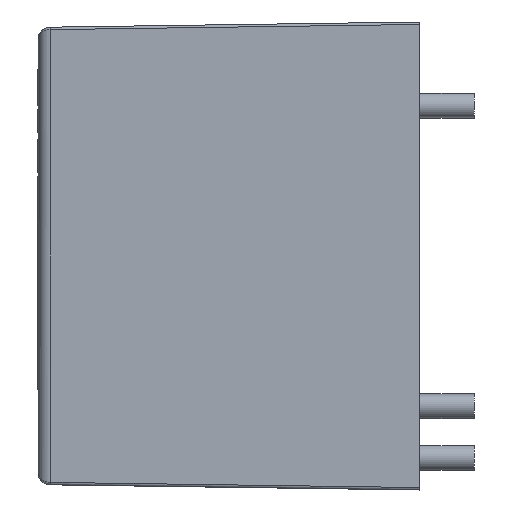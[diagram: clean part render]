
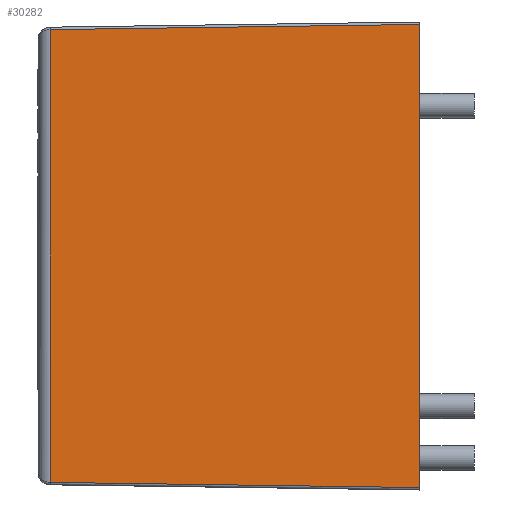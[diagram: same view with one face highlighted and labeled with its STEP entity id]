
A CAD part, left-side view. The second image highlights one B-rep face of the part: STEP entity #30282.
In plain terms, the highlighted planar face has unit normal (-1, 0.014, 0).
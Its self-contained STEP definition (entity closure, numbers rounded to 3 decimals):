
#292 = CARTESIAN_POINT ( 'NONE',  ( -7.75, 0., 9.4 ) ) ;
#1496 = LINE ( 'NONE', #5194, #44952 ) ;
#3906 = AXIS2_PLACEMENT_3D ( 'NONE', #36154, #13257, #47883 ) ;
#4122 = LINE ( 'NONE', #11248, #41570 ) ;
#5194 = CARTESIAN_POINT ( 'NONE',  ( -7.54, 15.007, 9.5 ) ) ;
#5894 = PLANE ( 'NONE',  #3906 ) ;
#6171 = LINE ( 'NONE', #21952, #12684 ) ;
#7831 = DIRECTION ( 'NONE',  ( 0., 0., 1. ) ) ;
#9491 = EDGE_LOOP ( 'NONE', ( #35751, #30710, #44658, #11664 ) ) ;
#11248 = CARTESIAN_POINT ( 'NONE',  ( -7.75, 0., 9.5 ) ) ;
#11664 = ORIENTED_EDGE ( 'NONE', *, *, #25399, .T. ) ;
#12684 = VECTOR ( 'NONE', #36952, 1000. ) ;
#13257 = DIRECTION ( 'NONE',  ( -1., 0.014, 0. ) ) ;
#17117 = EDGE_CURVE ( 'NONE', #25709, #27810, #1496, .T. ) ;
#18814 = CARTESIAN_POINT ( 'NONE',  ( -7.746, 0.264, -9.396 ) ) ;
#20943 = CARTESIAN_POINT ( 'NONE',  ( -7.54, 15.007, 9.19 ) ) ;
#21952 = CARTESIAN_POINT ( 'NONE',  ( -7.75, -0.001, 9.4 ) ) ;
#25399 = EDGE_CURVE ( 'NONE', #27810, #34467, #44830, .T. ) ;
#25709 = VERTEX_POINT ( 'NONE', #20943 ) ;
#27810 = VERTEX_POINT ( 'NONE', #44864 ) ;
#28121 = VERTEX_POINT ( 'NONE', #292 ) ;
#30282 = ADVANCED_FACE ( 'NONE', ( #36416 ), #5894, .T. ) ;
#30710 = ORIENTED_EDGE ( 'NONE', *, *, #44766, .T. ) ;
#34467 = VERTEX_POINT ( 'NONE', #39465 ) ;
#35751 = ORIENTED_EDGE ( 'NONE', *, *, #45773, .T. ) ;
#36154 = CARTESIAN_POINT ( 'NONE',  ( -7.75, 0., 9.5 ) ) ;
#36416 = FACE_OUTER_BOUND ( 'NONE', #9491, .T. ) ;
#36952 = DIRECTION ( 'NONE',  ( 0.014, 1., -0.014 ) ) ;
#37372 = VECTOR ( 'NONE', #37983, 1000. ) ;
#37983 = DIRECTION ( 'NONE',  ( -0.014, -1., -0.014 ) ) ;
#39465 = CARTESIAN_POINT ( 'NONE',  ( -7.75, 0., -9.4 ) ) ;
#41570 = VECTOR ( 'NONE', #7831, 1000. ) ;
#42568 = DIRECTION ( 'NONE',  ( 0., 0., -1. ) ) ;
#44658 = ORIENTED_EDGE ( 'NONE', *, *, #17117, .T. ) ;
#44766 = EDGE_CURVE ( 'NONE', #28121, #25709, #6171, .T. ) ;
#44830 = LINE ( 'NONE', #18814, #37372 ) ;
#44864 = CARTESIAN_POINT ( 'NONE',  ( -7.54, 15.007, -9.19 ) ) ;
#44952 = VECTOR ( 'NONE', #42568, 1000. ) ;
#45773 = EDGE_CURVE ( 'NONE', #34467, #28121, #4122, .T. ) ;
#47883 = DIRECTION ( 'NONE',  ( -0.014, -1., 0. ) ) ;
